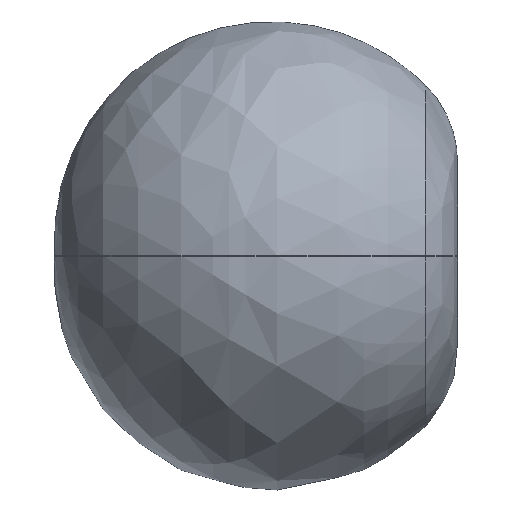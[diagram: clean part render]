
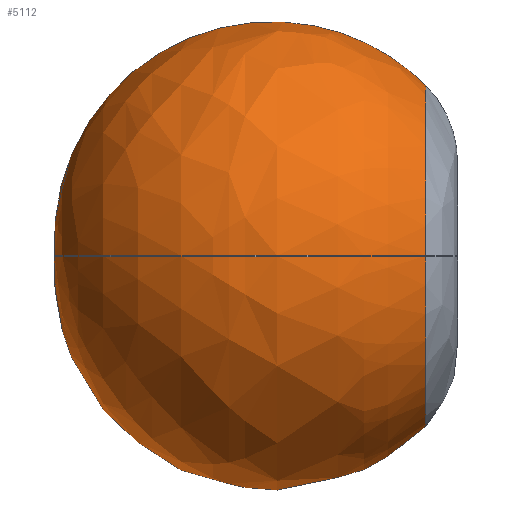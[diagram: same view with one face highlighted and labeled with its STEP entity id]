
A CAD part, left-side view. The second image highlights one B-rep face of the part: STEP entity #5112.
In plain terms, the highlighted free-form (B-spline) face has degree [3, 3] with [4, 7] control points.
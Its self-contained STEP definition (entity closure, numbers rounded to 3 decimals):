
#5112 = ADVANCED_FACE( '', ( #13913, #13914 ), #13915, .T. );
#13913 = FACE_OUTER_BOUND( '', #27600, .T. );
#13914 = FACE_BOUND( '', #27601, .T. );
#13915 = ( BOUNDED_SURFACE(  )B_SPLINE_SURFACE( 3, 3, ( ( #27604, #27605, #27606, #27607, #27608, #27609, #27610 ), ( #27611, #27612, #27613, #27614, #27615, #27616, #27617 ), ( #27618, #27619, #27620, #27621, #27622, #27623, #27624 ), ( #27625, #27626, #27627, #27628, #27629, #27630, #27631 ) ), .UNSPECIFIED., .F., .T., .F. )B_SPLINE_SURFACE_WITH_KNOTS( ( 4, 4 ), ( 4, 3, 4 ), ( 0., 6.283 ), ( -0.785, 0.431, 1.648 ), .UNSPECIFIED. )GEOMETRIC_REPRESENTATION_ITEM(  )RATIONAL_B_SPLINE_SURFACE( ( ( 1., 0.333, 0.333, 1., 0.333, 0.333, 1. ), ( 0.565, 0.188, 0.188, 0.565, 0.188, 0.188, 0.565 ), ( 0.565, 0.188, 0.188, 0.565, 0.188, 0.188, 0.565 ), ( 1., 0.333, 0.333, 1., 0.333, 0.333, 1. ) ) )REPRESENTATION_ITEM( '' )SURFACE(  ) );
#27600 = EDGE_LOOP( '', ( #44305 ) );
#27601 = VERTEX_LOOP( '', #44306 );
#27604 = CARTESIAN_POINT( '', ( 100., 1296.75, 0. ) );
#27605 = CARTESIAN_POINT( '', ( 100., 1296.75, 0. ) );
#27606 = CARTESIAN_POINT( '', ( 100., 1296.75, 0. ) );
#27607 = CARTESIAN_POINT( '', ( 100., 1296.75, 0. ) );
#27608 = CARTESIAN_POINT( '', ( 100., 1296.75, 0. ) );
#27609 = CARTESIAN_POINT( '', ( 100., 1296.75, 0. ) );
#27610 = CARTESIAN_POINT( '', ( 100., 1296.75, 0. ) );
#27611 = CARTESIAN_POINT( '', ( 100., 1407.508, 1436.263 ) );
#27612 = CARTESIAN_POINT( '', ( 2972.526, 1407.508, 1436.263 ) );
#27613 = CARTESIAN_POINT( '', ( 2972.526, 1407.508, -1436.263 ) );
#27614 = CARTESIAN_POINT( '', ( 100., 1407.508, -1436.263 ) );
#27615 = CARTESIAN_POINT( '', ( -2772.526, 1407.508, -1436.263 ) );
#27616 = CARTESIAN_POINT( '', ( -2772.526, 1407.508, 1436.263 ) );
#27617 = CARTESIAN_POINT( '', ( 100., 1407.508, 1436.263 ) );
#27618 = CARTESIAN_POINT( '', ( 100., 98.807, 2038.276 ) );
#27619 = CARTESIAN_POINT( '', ( 4176.553, 98.807, 2038.276 ) );
#27620 = CARTESIAN_POINT( '', ( 4176.553, 98.807, -2038.276 ) );
#27621 = CARTESIAN_POINT( '', ( 100., 98.807, -2038.276 ) );
#27622 = CARTESIAN_POINT( '', ( -3976.553, 98.807, -2038.276 ) );
#27623 = CARTESIAN_POINT( '', ( -3976.553, 98.807, 2038.276 ) );
#27624 = CARTESIAN_POINT( '', ( 100., 98.807, 2038.276 ) );
#27625 = CARTESIAN_POINT( '', ( 100., -919.728, 1019.598 ) );
#27626 = CARTESIAN_POINT( '', ( 2139.195, -919.728, 1019.598 ) );
#27627 = CARTESIAN_POINT( '', ( 2139.195, -919.728, -1019.598 ) );
#27628 = CARTESIAN_POINT( '', ( 100., -919.728, -1019.598 ) );
#27629 = CARTESIAN_POINT( '', ( -1939.195, -919.728, -1019.598 ) );
#27630 = CARTESIAN_POINT( '', ( -1939.195, -919.728, 1019.598 ) );
#27631 = CARTESIAN_POINT( '', ( 100., -919.728, 1019.598 ) );
#44305 = ORIENTED_EDGE( '', *, *, #78349, .T. );
#44306 = VERTEX_POINT( '', #78350 );
#78349 = EDGE_CURVE( '', #93611, #93611, #93612, .T. );
#78350 = CARTESIAN_POINT( '', ( 100., 1296.75, 0. ) );
#93611 = VERTEX_POINT( '', #116504 );
#93612 = CIRCLE( '', #116505, 1019.598 );
#116504 = CARTESIAN_POINT( '', ( 100., -919.728, 1019.598 ) );
#116505 = AXIS2_PLACEMENT_3D( '', #145981, #145982, #145983 );
#145981 = CARTESIAN_POINT( '', ( 100., -919.728, 0. ) );
#145982 = DIRECTION( '', ( 0., 1., 0. ) );
#145983 = DIRECTION( '', ( 0., 0., 1. ) );
